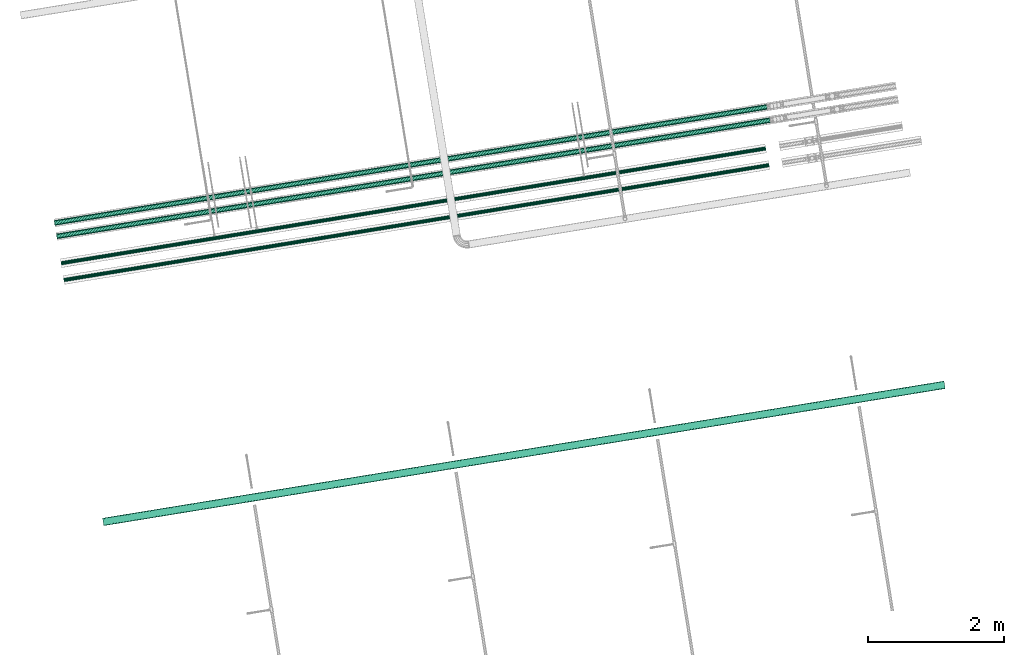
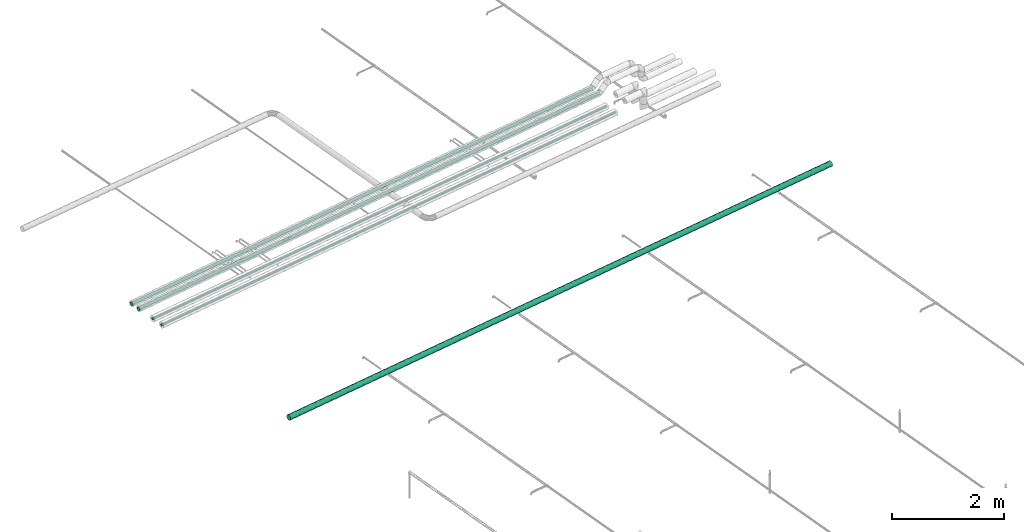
# One storey, part 51 of 56: 5 flow segments.
"""IFC2X3 building model written with IfcOpenShell, lengths in millimetres."""

from ifc_helpers import new_model, entity, si_unit, converted_unit, derived_unit, direction, frame, origin, origin_with_axes, place, context, subcontext, project, spatial, faceted_brep, material, type_object, element, save


model = new_model("IFC2X3")

# Units and contexts
model_context = context("Model", 3, precision=0.01, world=origin(), true_north=direction((6.12323399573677e-17, 1.0)))
plan_context = context("Plan", 3, precision=1e-05, world=origin_with_axes())
body_context = subcontext(model_context, "Body", "Model", "MODEL_VIEW")
ifc_project = project(units=[converted_unit("PLANEANGLEUNIT", "DEGREE", entity("IfcPositiveLengthMeasure", 0.0174532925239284), si_unit("PLANEANGLEUNIT", "RADIAN"), dimensions=[0, 0, 0, 0, 0, 0, 0]), si_unit("AREAUNIT", "SQUARE_METRE"), si_unit("LENGTHUNIT", "METRE", prefix="MILLI"), si_unit("MASSUNIT", "GRAM", prefix="KILO"), si_unit("POWERUNIT", "WATT"), si_unit("PRESSUREUNIT", "PASCAL", prefix="KILO"), si_unit("FORCEUNIT", "NEWTON", prefix="KILO"), si_unit("ELECTRICVOLTAGEUNIT", "VOLT"), si_unit("ELECTRICCURRENTUNIT", "AMPERE"), si_unit("THERMODYNAMICTEMPERATUREUNIT", "DEGREE_CELSIUS"), si_unit("TIMEUNIT", "SECOND"), si_unit("VOLUMEUNIT", "CUBIC_METRE"), derived_unit("LINEARVELOCITYUNIT", [(si_unit("LENGTHUNIT", "METRE"), 1), (si_unit("TIMEUNIT", "SECOND"), -1)]), derived_unit("VOLUMETRICFLOWRATEUNIT", [(si_unit("VOLUMEUNIT", "CUBIC_METRE"), 1), (si_unit("TIMEUNIT", "SECOND"), -1)]), derived_unit("THERMALTRANSMITTANCEUNIT", [(si_unit("POWERUNIT", "WATT"), 1), (si_unit("THERMODYNAMICTEMPERATUREUNIT", "KELVIN"), -1), (si_unit("AREAUNIT", "SQUARE_METRE"), -1)]), derived_unit("SOUNDPRESSUREUNIT", [(si_unit("PRESSUREUNIT", "PASCAL"), 1)])], contexts=[model_context, plan_context])

# Site, building, storey
site_placement = place(None, frame((-3.09682673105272e-06, 1.93776733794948e-05, 0.0), z_axis=(0.0, 0.0, 1.0), x_axis=(-0.160806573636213, 0.986985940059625, 0.0)))
site = spatial("IfcSite", under=ifc_project, at=site_placement, Name="Default", CompositionType="ELEMENT")
building_placement = place(site_placement, frame((0.0, 0.0, 0.0), z_axis=(0.0, 0.0, 1.0), x_axis=(1.0, -2.77555756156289e-17, 0.0)))
building = spatial("IfcBuilding", under=site, at=building_placement, Name="Bygning (endres i Project Information)", CompositionType="ELEMENT")
storey_placement = place(building_placement, frame((0.0, 0.0, 51360.0000000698), z_axis=(0.0, 0.0, 1.0), x_axis=(1.0, -2.77555756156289e-17, 0.0)))
storey = spatial("IfcBuildingStorey", under=building, at=storey_placement, Name="H01-Nivå D+0,36", CompositionType="ELEMENT", Elevation=51360.0000000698)

# Flow segments
ifc_material_1 = material(Name="3320.001")
pipe_segment_type_1 = type_object("IfcPipeSegmentType", Name="Pipe Types:Stålrør sveist og gjenget", PredefinedType="NOTDEFINED", material=ifc_material_1)
flow_segment_1_placement = place(storey_placement, frame((0.0, 0.0, 0.0), z_axis=(0.0, 0.0, 1.0), x_axis=(1.0, -2.77555756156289e-17, 0.0)))
element("IfcFlowSegment", 1, at=flow_segment_1_placement, inside=storey, type_object=pipe_segment_type_1, Name="Pipe Types:Stålrør sveist og gjenget", ObjectType="Pipe Types:Stålrør sveist og gjenget", context=body_context, shape_type="Brep", body=[
    faceted_brep([(1007493.55266009, -384051.763990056, 3379.92399363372), (1007494.42089703, -384051.763990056, 3370.0), (1007494.42089703, -396579.084056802, 3370.0), (1007493.55266009, -396579.084056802, 3379.92399363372), (1007493.55266009, -384051.763990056, 3360.07600636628), (1007493.55266009, -396579.084056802, 3360.07600636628), (1007490.97433022, -384051.763990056, 3350.45354825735), (1007490.97433022, -396579.084056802, 3350.45354825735), (1007486.76424864, -384051.763990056, 3341.42499919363), (1007486.76424864, -396579.084056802, 3341.42499919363), (1007481.05033658, -384051.763990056, 3333.26468706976), (1007481.05033658, -396579.084056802, 3333.26468706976), (1007474.00620835, -384051.763990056, 3326.22055884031), (1007474.00620835, -396579.084056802, 3326.22055884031), (1007465.84589623, -384051.763990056, 3320.50664677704), (1007465.84589623, -396579.084056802, 3320.50664677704), (1007456.81734716, -384051.763990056, 3316.2965652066), (1007456.81734716, -396579.084056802, 3316.2965652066), (1007447.19488906, -384051.763990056, 3313.71823532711), (1007447.19488906, -396579.084056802, 3313.71823532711), (1007437.27089542, -384051.763990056, 3312.84999838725), (1007437.27089542, -396579.084056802, 3312.84999838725), (1007427.34690179, -384051.763990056, 3313.71823532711), (1007427.34690179, -396579.084056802, 3313.71823532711), (1007417.72444368, -384051.763990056, 3316.2965652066), (1007417.72444368, -396579.084056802, 3316.2965652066), (1007408.69589462, -384051.763990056, 3320.50664677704), (1007408.69589462, -396579.084056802, 3320.50664677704), (1007400.53558249, -384051.763990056, 3326.22055884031), (1007400.53558249, -396579.084056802, 3326.22055884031), (1007393.49145426, -384051.763990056, 3333.26468706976), (1007393.49145426, -396579.084056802, 3333.26468706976), (1007387.7775422, -384051.763990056, 3341.42499919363), (1007387.7775422, -396579.084056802, 3341.42499919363), (1007383.56746063, -384051.763990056, 3350.45354825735), (1007383.56746063, -396579.084056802, 3350.45354825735), (1007380.98913075, -384051.763990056, 3360.07600636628), (1007380.98913075, -396579.084056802, 3360.07600636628), (1007380.12089381, -384051.763990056, 3370.0), (1007380.12089381, -396579.084056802, 3370.0), (1007380.98913075, -384051.763990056, 3379.92399363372), (1007380.98913075, -396579.084056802, 3379.92399363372), (1007383.56746063, -384051.763990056, 3389.54645174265), (1007383.56746063, -396579.084056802, 3389.54645174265), (1007387.7775422, -384051.763990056, 3398.57500080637), (1007387.7775422, -396579.084056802, 3398.57500080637), (1007393.49145426, -384051.763990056, 3406.73531293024), (1007393.49145426, -396579.084056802, 3406.73531293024), (1007400.53558249, -384051.763990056, 3413.77944115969), (1007400.53558249, -396579.084056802, 3413.77944115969), (1007408.69589462, -384051.763990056, 3419.49335322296), (1007408.69589462, -396579.084056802, 3419.49335322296), (1007417.72444368, -384051.763990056, 3423.7034347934), (1007417.72444368, -396579.084056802, 3423.7034347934), (1007427.34690179, -384051.763990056, 3426.28176467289), (1007427.34690179, -396579.084056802, 3426.28176467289), (1007437.27089542, -384051.763990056, 3427.15000161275), (1007437.27089542, -396579.084056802, 3427.15000161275), (1007447.19488906, -384051.763990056, 3426.28176467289), (1007447.19488906, -396579.084056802, 3426.28176467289), (1007456.81734716, -384051.763990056, 3423.7034347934), (1007456.81734716, -396579.084056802, 3423.7034347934), (1007465.84589623, -384051.763990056, 3419.49335322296), (1007465.84589623, -396579.084056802, 3419.49335322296), (1007474.00620835, -384051.763990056, 3413.77944115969), (1007474.00620835, -396579.084056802, 3413.77944115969), (1007481.05033658, -384051.763990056, 3406.73531293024), (1007481.05033658, -396579.084056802, 3406.73531293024), (1007486.76424864, -384051.763990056, 3398.57500080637), (1007486.76424864, -396579.084056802, 3398.57500080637), (1007490.97433022, -384051.763990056, 3389.54645174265), (1007490.97433022, -396579.084056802, 3389.54645174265)], [[[0, 1, 2, 3]], [[1, 4, 5, 2]], [[4, 6, 7, 5]], [[6, 8, 9, 7]], [[8, 10, 11, 9]], [[10, 12, 13, 11]], [[12, 14, 15, 13]], [[14, 16, 17, 15]], [[16, 18, 19, 17]], [[18, 20, 21, 19]], [[20, 22, 23, 21]], [[22, 24, 25, 23]], [[24, 26, 27, 25]], [[26, 28, 29, 27]], [[28, 30, 31, 29]], [[30, 32, 33, 31]], [[32, 34, 35, 33]], [[34, 36, 37, 35]], [[36, 38, 39, 37]], [[38, 40, 41, 39]], [[40, 42, 43, 41]], [[42, 44, 45, 43]], [[44, 46, 47, 45]], [[46, 48, 49, 47]], [[48, 50, 51, 49]], [[50, 52, 53, 51]], [[52, 54, 55, 53]], [[54, 56, 57, 55]], [[56, 58, 59, 57]], [[58, 60, 61, 59]], [[60, 62, 63, 61]], [[62, 64, 65, 63]], [[64, 66, 67, 65]], [[66, 68, 69, 67]], [[68, 70, 71, 69]], [[70, 0, 3, 71]], [[70, 68, 66, 64, 62, 60, 58, 56, 54, 52, 50, 48, 46, 44, 42, 40, 38, 36, 34, 32, 30, 28, 26, 24, 22, 20, 18, 16, 14, 12, 10, 8, 6, 4, 1, 0]], [[5, 7, 9, 11, 13, 15, 17, 19, 21, 23, 25, 27, 29, 31, 33, 35, 37, 39, 41, 43, 45, 47, 49, 51, 53, 55, 57, 59, 61, 63, 65, 67, 69, 71, 3, 2]]], orient=[[False], [False], [False], [False], [False], [False], [False], [False], [False], [False], [False], [False], [False], [False], [False], [False], [False], [False], [False], [False], [False], [False], [False], [False], [False], [False], [False], [False], [False], [False], [False], [False], [False], [False], [False], [False], [False], [False]]),
])
flow_segment_2_placement = place(storey_placement, frame((0.0, 0.0, 0.0), z_axis=(0.0, 0.0, 1.0), x_axis=(1.0, -2.77555756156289e-17, 0.0)))
element("IfcFlowSegment", 2, at=flow_segment_2_placement, inside=storey, type_object=pipe_segment_type_1, Name="Pipe Types:Stålrør sveist og gjenget", ObjectType="Pipe Types:Stålrør sveist og gjenget", context=body_context, shape_type="Brep", body=[
    faceted_brep([(1011925.83957724, -384051.763990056, 3446.60804996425), (1011926.41764223, -384051.763990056, 3440.00073692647), (1011926.41764223, -394659.672553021, 3440.00073692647), (1011925.83957724, -394659.672553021, 3446.60804996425), (1011925.83957724, -384051.763990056, 3433.39342388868), (1011925.83957724, -394659.672553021, 3433.39342388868), (1011924.12294649, -384051.763990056, 3426.98687071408), (1011924.12294649, -394659.672553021, 3426.98687071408), (1011921.31990894, -384051.763990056, 3420.97573727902), (1011921.31990894, -394659.672553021, 3420.97573727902), (1011917.51563346, -384051.763990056, 3415.54266883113), (1011917.51563346, -394659.672553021, 3415.54266883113), (1011912.82571103, -384051.763990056, 3410.85274640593), (1011912.82571103, -394659.672553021, 3410.85274640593), (1011907.39264258, -384051.763990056, 3407.04847092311), (1011907.39264258, -394659.672553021, 3407.04847092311), (1011901.38150915, -384051.763990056, 3404.24543336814), (1011901.38150915, -394659.672553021, 3404.24543336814), (1011894.97495597, -384051.763990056, 3402.52880261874), (1011894.97495597, -394659.672553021, 3402.52880261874), (1011888.36764294, -384051.763990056, 3401.95073763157), (1011888.36764294, -394659.672553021, 3401.95073763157), (1011881.7603299, -384051.763990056, 3402.52880261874), (1011881.7603299, -394659.672553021, 3402.52880261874), (1011875.35377672, -384051.763990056, 3404.24543336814), (1011875.35377672, -394659.672553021, 3404.24543336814), (1011869.34264329, -384051.763990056, 3407.04847092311), (1011869.34264329, -394659.672553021, 3407.04847092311), (1011863.90957484, -384051.763990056, 3410.85274640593), (1011863.90957484, -394659.672553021, 3410.85274640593), (1011859.21965241, -384051.763990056, 3415.54266883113), (1011859.21965241, -394659.672553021, 3415.54266883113), (1011855.41537693, -384051.763990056, 3420.97573727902), (1011855.41537693, -394659.672553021, 3420.97573727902), (1011852.61233938, -384051.763990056, 3426.98687071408), (1011852.61233938, -394659.672553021, 3426.98687071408), (1011850.89570863, -384051.763990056, 3433.39342388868), (1011850.89570863, -394659.672553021, 3433.39342388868), (1011850.31764364, -384051.763990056, 3440.00073692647), (1011850.31764364, -394659.672553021, 3440.00073692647), (1011850.89570863, -384051.763990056, 3446.60804996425), (1011850.89570863, -394659.672553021, 3446.60804996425), (1011852.61233938, -384051.763990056, 3453.01460313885), (1011852.61233938, -394659.672553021, 3453.01460313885), (1011855.41537693, -384051.763990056, 3459.02573657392), (1011855.41537693, -394659.672553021, 3459.02573657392), (1011859.21965241, -384051.763990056, 3464.45880502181), (1011859.21965241, -394659.672553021, 3464.45880502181), (1011863.90957484, -384051.763990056, 3469.148727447), (1011863.90957484, -394659.672553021, 3469.148727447), (1011869.34264329, -384051.763990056, 3472.95300292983), (1011869.34264329, -394659.672553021, 3472.95300292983), (1011875.35377672, -384051.763990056, 3475.75604048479), (1011875.35377672, -394659.672553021, 3475.75604048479), (1011881.7603299, -384051.763990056, 3477.47267123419), (1011881.7603299, -394659.672553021, 3477.47267123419), (1011888.36764294, -384051.763990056, 3478.05073622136), (1011888.36764294, -394659.672553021, 3478.05073622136), (1011894.97495597, -384051.763990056, 3477.47267123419), (1011894.97495597, -394659.672553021, 3477.47267123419), (1011901.38150915, -384051.763990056, 3475.75604048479), (1011901.38150915, -394659.672553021, 3475.75604048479), (1011907.39264258, -384051.763990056, 3472.95300292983), (1011907.39264258, -394659.672553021, 3472.95300292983), (1011912.82571103, -384051.763990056, 3469.148727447), (1011912.82571103, -394659.672553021, 3469.148727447), (1011917.51563346, -384051.763990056, 3464.45880502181), (1011917.51563346, -394659.672553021, 3464.45880502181), (1011921.31990894, -384051.763990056, 3459.02573657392), (1011921.31990894, -394659.672553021, 3459.02573657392), (1011924.12294649, -384051.763990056, 3453.01460313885), (1011924.12294649, -394659.672553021, 3453.01460313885)], [[[0, 1, 2, 3]], [[1, 4, 5, 2]], [[4, 6, 7, 5]], [[6, 8, 9, 7]], [[8, 10, 11, 9]], [[10, 12, 13, 11]], [[12, 14, 15, 13]], [[14, 16, 17, 15]], [[16, 18, 19, 17]], [[18, 20, 21, 19]], [[20, 22, 23, 21]], [[22, 24, 25, 23]], [[24, 26, 27, 25]], [[26, 28, 29, 27]], [[28, 30, 31, 29]], [[30, 32, 33, 31]], [[32, 34, 35, 33]], [[34, 36, 37, 35]], [[36, 38, 39, 37]], [[38, 40, 41, 39]], [[40, 42, 43, 41]], [[42, 44, 45, 43]], [[44, 46, 47, 45]], [[46, 48, 49, 47]], [[48, 50, 51, 49]], [[50, 52, 53, 51]], [[52, 54, 55, 53]], [[54, 56, 57, 55]], [[56, 58, 59, 57]], [[58, 60, 61, 59]], [[60, 62, 63, 61]], [[62, 64, 65, 63]], [[64, 66, 67, 65]], [[66, 68, 69, 67]], [[68, 70, 71, 69]], [[70, 0, 3, 71]], [[3, 2, 5, 7, 9, 11, 13, 15, 17, 19, 21, 23, 25, 27, 29, 31, 33, 35, 37, 39, 41, 43, 45, 47, 49, 51, 53, 55, 57, 59, 61, 63, 65, 67, 69, 71]], [[70, 68, 66, 64, 62, 60, 58, 56, 54, 52, 50, 48, 46, 44, 42, 40, 38, 36, 34, 32, 30, 28, 26, 24, 22, 20, 18, 16, 14, 12, 10, 8, 6, 4, 1, 0]]], orient=[[False], [False], [False], [False], [False], [False], [False], [False], [False], [False], [False], [False], [False], [False], [False], [False], [False], [False], [False], [False], [False], [False], [False], [False], [False], [False], [False], [False], [False], [False], [False], [False], [False], [False], [False], [False], [False], [False]]),
])
flow_segment_3_placement = place(storey_placement, frame((0.0, 0.0, 0.0), z_axis=(0.0, 0.0, 1.0), x_axis=(1.0, -2.77555756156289e-17, 0.0)))
element("IfcFlowSegment", 3, at=flow_segment_3_placement, inside=storey, type_object=pipe_segment_type_1, Name="Pipe Types:Stålrør sveist og gjenget", ObjectType="Pipe Types:Stålrør sveist og gjenget", context=body_context, shape_type="Brep", body=[
    faceted_brep([(1011725.83957724, -384051.763990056, 3446.60804996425), (1011726.41764223, -384051.763990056, 3440.00073692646), (1011726.41764223, -394674.672553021, 3440.00073692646), (1011725.83957724, -394674.672553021, 3446.60804996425), (1011725.83957724, -384051.763990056, 3433.39342388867), (1011725.83957724, -394674.672553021, 3433.39342388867), (1011724.12294649, -384051.763990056, 3426.98687071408), (1011724.12294649, -394674.672553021, 3426.98687071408), (1011721.31990894, -384051.763990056, 3420.97573727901), (1011721.31990894, -394674.672553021, 3420.97573727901), (1011717.51563346, -384051.763990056, 3415.54266883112), (1011717.51563346, -394674.672553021, 3415.54266883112), (1011712.82571103, -384051.763990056, 3410.85274640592), (1011712.82571103, -394674.672553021, 3410.85274640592), (1011707.39264258, -384051.763990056, 3407.0484709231), (1011707.39264258, -394674.672553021, 3407.0484709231), (1011701.38150915, -384051.763990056, 3404.24543336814), (1011701.38150915, -394674.672553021, 3404.24543336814), (1011694.97495597, -384051.763990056, 3402.52880261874), (1011694.97495597, -394674.672553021, 3402.52880261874), (1011688.36764294, -384051.763990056, 3401.95073763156), (1011688.36764294, -394674.672553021, 3401.95073763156), (1011681.7603299, -384051.763990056, 3402.52880261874), (1011681.7603299, -394674.672553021, 3402.52880261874), (1011675.35377672, -384051.763990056, 3404.24543336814), (1011675.35377672, -394674.672553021, 3404.24543336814), (1011669.34264329, -384051.763990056, 3407.0484709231), (1011669.34264329, -394674.672553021, 3407.0484709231), (1011663.90957484, -384051.763990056, 3410.85274640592), (1011663.90957484, -394674.672553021, 3410.85274640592), (1011659.21965241, -384051.763990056, 3415.54266883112), (1011659.21965241, -394674.672553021, 3415.54266883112), (1011655.41537693, -384051.763990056, 3420.97573727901), (1011655.41537693, -394674.672553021, 3420.97573727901), (1011652.61233938, -384051.763990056, 3426.98687071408), (1011652.61233938, -394674.672553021, 3426.98687071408), (1011650.89570863, -384051.763990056, 3433.39342388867), (1011650.89570863, -394674.672553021, 3433.39342388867), (1011650.31764364, -384051.763990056, 3440.00073692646), (1011650.31764364, -394674.672553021, 3440.00073692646), (1011650.89570863, -384051.763990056, 3446.60804996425), (1011650.89570863, -394674.672553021, 3446.60804996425), (1011652.61233938, -384051.763990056, 3453.01460313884), (1011652.61233938, -394674.672553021, 3453.01460313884), (1011655.41537693, -384051.763990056, 3459.02573657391), (1011655.41537693, -394674.672553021, 3459.02573657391), (1011659.21965241, -384051.763990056, 3464.4588050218), (1011659.21965241, -394674.672553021, 3464.4588050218), (1011663.90957484, -384051.763990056, 3469.148727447), (1011663.90957484, -394674.672553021, 3469.148727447), (1011669.34264329, -384051.763990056, 3472.95300292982), (1011669.34264329, -394674.672553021, 3472.95300292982), (1011675.35377672, -384051.763990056, 3475.75604048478), (1011675.35377672, -394674.672553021, 3475.75604048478), (1011681.7603299, -384051.763990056, 3477.47267123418), (1011681.7603299, -394674.672553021, 3477.47267123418), (1011688.36764294, -384051.763990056, 3478.05073622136), (1011688.36764294, -394674.672553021, 3478.05073622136), (1011694.97495597, -384051.763990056, 3477.47267123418), (1011694.97495597, -394674.672553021, 3477.47267123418), (1011701.38150915, -384051.763990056, 3475.75604048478), (1011701.38150915, -394674.672553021, 3475.75604048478), (1011707.39264258, -384051.763990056, 3472.95300292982), (1011707.39264258, -394674.672553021, 3472.95300292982), (1011712.82571103, -384051.763990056, 3469.148727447), (1011712.82571103, -394674.672553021, 3469.148727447), (1011717.51563346, -384051.763990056, 3464.4588050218), (1011717.51563346, -394674.672553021, 3464.4588050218), (1011721.31990894, -384051.763990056, 3459.02573657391), (1011721.31990894, -394674.672553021, 3459.02573657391), (1011724.12294649, -384051.763990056, 3453.01460313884), (1011724.12294649, -394674.672553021, 3453.01460313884)], [[[0, 1, 2, 3]], [[1, 4, 5, 2]], [[4, 6, 7, 5]], [[6, 8, 9, 7]], [[8, 10, 11, 9]], [[10, 12, 13, 11]], [[12, 14, 15, 13]], [[14, 16, 17, 15]], [[16, 18, 19, 17]], [[18, 20, 21, 19]], [[20, 22, 23, 21]], [[22, 24, 25, 23]], [[24, 26, 27, 25]], [[26, 28, 29, 27]], [[28, 30, 31, 29]], [[30, 32, 33, 31]], [[32, 34, 35, 33]], [[34, 36, 37, 35]], [[36, 38, 39, 37]], [[38, 40, 41, 39]], [[40, 42, 43, 41]], [[42, 44, 45, 43]], [[44, 46, 47, 45]], [[46, 48, 49, 47]], [[48, 50, 51, 49]], [[50, 52, 53, 51]], [[52, 54, 55, 53]], [[54, 56, 57, 55]], [[56, 58, 59, 57]], [[58, 60, 61, 59]], [[60, 62, 63, 61]], [[62, 64, 65, 63]], [[64, 66, 67, 65]], [[66, 68, 69, 67]], [[68, 70, 71, 69]], [[70, 0, 3, 71]], [[3, 2, 5, 7, 9, 11, 13, 15, 17, 19, 21, 23, 25, 27, 29, 31, 33, 35, 37, 39, 41, 43, 45, 47, 49, 51, 53, 55, 57, 59, 61, 63, 65, 67, 69, 71]], [[70, 68, 66, 64, 62, 60, 58, 56, 54, 52, 50, 48, 46, 44, 42, 40, 38, 36, 34, 32, 30, 28, 26, 24, 22, 20, 18, 16, 14, 12, 10, 8, 6, 4, 1, 0]]], orient=[[False], [False], [False], [False], [False], [False], [False], [False], [False], [False], [False], [False], [False], [False], [False], [False], [False], [False], [False], [False], [False], [False], [False], [False], [False], [False], [False], [False], [False], [False], [False], [False], [False], [False], [False], [False], [False], [False]]),
])
ifc_material_2 = material(Name="3200.005 Tur")
pipe_segment_type_2 = type_object("IfcPipeSegmentType", Name="Pipe Types:Pressfittingssystem MM", PredefinedType="NOTDEFINED", material=ifc_material_2)
flow_segment_4_placement = place(storey_placement, frame((0.0, 0.0, 0.0), z_axis=(0.0, 0.0, 1.0), x_axis=(1.0, -2.77555756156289e-17, 0.0)))
element("IfcFlowSegment", 4, at=flow_segment_4_placement, inside=storey, type_object=pipe_segment_type_2, Name="Pipe Types:Pressfittingssystem MM", ObjectType="Pipe Types:Pressfittingssystem MM", context=body_context, shape_type="Brep", body=[
    faceted_brep([(1011261.81499908, -384051.763990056, 3435.31149919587), (1011261.40480841, -384051.763990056, 3440.0), (1011261.40480841, -394543.725267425, 3440.0), (1011261.81499908, -394543.725267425, 3435.31149919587), (1011261.81499908, -384051.763990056, 3444.68850080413), (1011261.81499908, -394543.725267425, 3444.68850080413), (1011263.03310765, -384051.763990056, 3449.23454388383), (1011263.03310765, -394543.725267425, 3449.23454388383), (1011265.02212251, -384051.763990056, 3453.50000002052), (1011265.02212251, -394543.725267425, 3453.50000002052), (1011267.72160846, -384051.763990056, 3457.35526548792), (1011267.72160846, -394543.725267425, 3457.35526548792), (1011271.04954296, -384051.763990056, 3460.68319999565), (1011271.04954296, -394543.725267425, 3460.68319999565), (1011274.90480843, -384051.763990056, 3463.38268593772), (1011274.90480843, -394543.725267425, 3463.38268593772), (1011279.17026457, -384051.763990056, 3465.37170079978), (1011279.17026457, -394543.725267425, 3465.37170079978), (1011283.71630765, -384051.763990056, 3466.58980937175), (1011283.71630765, -394543.725267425, 3466.58980937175), (1011288.40480845, -384051.763990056, 3467.00000004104), (1011288.40480845, -394543.725267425, 3467.00000004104), (1011293.09330926, -384051.763990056, 3466.58980937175), (1011293.09330925, -394543.725267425, 3466.58980937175), (1011297.63935233, -384051.763990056, 3465.37170079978), (1011297.63935233, -394543.725267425, 3465.37170079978), (1011301.90480847, -384051.763990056, 3463.38268593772), (1011301.90480847, -394543.725267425, 3463.38268593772), (1011305.76007394, -384051.763990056, 3460.68319999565), (1011305.76007394, -394543.725267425, 3460.68319999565), (1011309.08800845, -384051.763990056, 3457.35526548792), (1011309.08800845, -394543.725267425, 3457.35526548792), (1011311.78749439, -384051.763990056, 3453.50000002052), (1011311.78749439, -394543.725267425, 3453.50000002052), (1011313.77650925, -384051.763990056, 3449.23454388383), (1011313.77650925, -394543.725267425, 3449.23454388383), (1011314.99461782, -384051.763990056, 3444.68850080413), (1011314.99461782, -394543.725267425, 3444.68850080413), (1011315.40480849, -384051.763990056, 3440.0), (1011315.40480849, -394543.725267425, 3440.0), (1011314.99461782, -384051.763990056, 3435.31149919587), (1011314.99461782, -394543.725267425, 3435.31149919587), (1011313.77650925, -384051.763990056, 3430.76545611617), (1011313.77650925, -394543.725267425, 3430.76545611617), (1011311.78749439, -384051.763990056, 3426.49999997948), (1011311.78749439, -394543.725267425, 3426.49999997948), (1011309.08800845, -384051.763990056, 3422.64473451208), (1011309.08800845, -394543.725267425, 3422.64473451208), (1011305.76007394, -384051.763990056, 3419.31680000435), (1011305.76007394, -394543.725267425, 3419.31680000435), (1011301.90480847, -384051.763990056, 3416.61731406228), (1011301.90480847, -394543.725267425, 3416.61731406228), (1011297.63935233, -384051.763990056, 3414.62829920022), (1011297.63935233, -394543.725267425, 3414.62829920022), (1011293.09330926, -384051.763990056, 3413.41019062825), (1011293.09330925, -394543.725267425, 3413.41019062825), (1011288.40480845, -384051.763990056, 3412.99999995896), (1011288.40480845, -394543.725267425, 3412.99999995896), (1011283.71630765, -384051.763990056, 3413.41019062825), (1011283.71630765, -394543.725267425, 3413.41019062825), (1011279.17026457, -384051.763990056, 3414.62829920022), (1011279.17026457, -394543.725267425, 3414.62829920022), (1011274.90480843, -384051.763990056, 3416.61731406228), (1011274.90480843, -394543.725267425, 3416.61731406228), (1011271.04954296, -384051.763990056, 3419.31680000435), (1011271.04954296, -394543.725267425, 3419.31680000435), (1011267.72160846, -384051.763990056, 3422.64473451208), (1011267.72160846, -394543.725267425, 3422.64473451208), (1011265.02212251, -384051.763990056, 3426.49999997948), (1011265.02212251, -394543.725267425, 3426.49999997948), (1011263.03310765, -384051.763990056, 3430.76545611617), (1011263.03310765, -394543.725267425, 3430.76545611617)], [[[0, 1, 2, 3]], [[1, 4, 5, 2]], [[4, 6, 7, 5]], [[6, 8, 9, 7]], [[8, 10, 11, 9]], [[10, 12, 13, 11]], [[12, 14, 15, 13]], [[14, 16, 17, 15]], [[16, 18, 19, 17]], [[18, 20, 21, 19]], [[20, 22, 23, 21]], [[22, 24, 25, 23]], [[24, 26, 27, 25]], [[26, 28, 29, 27]], [[28, 30, 31, 29]], [[30, 32, 33, 31]], [[32, 34, 35, 33]], [[34, 36, 37, 35]], [[36, 38, 39, 37]], [[38, 40, 41, 39]], [[40, 42, 43, 41]], [[42, 44, 45, 43]], [[44, 46, 47, 45]], [[46, 48, 49, 47]], [[48, 50, 51, 49]], [[50, 52, 53, 51]], [[52, 54, 55, 53]], [[54, 56, 57, 55]], [[56, 58, 59, 57]], [[58, 60, 61, 59]], [[60, 62, 63, 61]], [[62, 64, 65, 63]], [[64, 66, 67, 65]], [[66, 68, 69, 67]], [[68, 70, 71, 69]], [[70, 0, 3, 71]], [[3, 2, 5, 7, 9, 11, 13, 15, 17, 19, 21, 23, 25, 27, 29, 31, 33, 35, 37, 39, 41, 43, 45, 47, 49, 51, 53, 55, 57, 59, 61, 63, 65, 67, 69, 71]], [[70, 68, 66, 64, 62, 60, 58, 56, 54, 52, 50, 48, 46, 44, 42, 40, 38, 36, 34, 32, 30, 28, 26, 24, 22, 20, 18, 16, 14, 12, 10, 8, 6, 4, 1, 0]]], orient=[[False], [False], [False], [False], [False], [False], [False], [False], [False], [False], [False], [False], [False], [False], [False], [False], [False], [False], [False], [False], [False], [False], [False], [False], [False], [False], [False], [False], [False], [False], [False], [False], [False], [False], [False], [False], [False], [False]]),
])
flow_segment_5_placement = place(storey_placement, frame((0.0, 0.0, 0.0), z_axis=(0.0, 0.0, 1.0), x_axis=(1.0, -2.77555756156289e-17, 0.0)))
element("IfcFlowSegment", 5, at=flow_segment_5_placement, inside=storey, type_object=pipe_segment_type_2, Name="Pipe Types:Pressfittingssystem MM", ObjectType="Pipe Types:Pressfittingssystem MM", context=body_context, shape_type="Brep", body=[
    faceted_brep([(1011011.84703343, -384051.763990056, 3435.31149919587), (1011011.43684277, -384051.763990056, 3440.0), (1011011.43684277, -394553.757301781, 3440.0), (1011011.84703343, -394553.757301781, 3435.31149919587), (1011011.84703343, -384051.763990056, 3444.68850080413), (1011011.84703343, -394553.757301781, 3444.68850080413), (1011013.06514201, -384051.763990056, 3449.23454388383), (1011013.06514201, -394553.757301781, 3449.23454388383), (1011015.05415687, -384051.763990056, 3453.50000002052), (1011015.05415687, -394553.757301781, 3453.50000002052), (1011017.75364281, -384051.763990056, 3457.35526548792), (1011017.75364281, -394553.757301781, 3457.35526548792), (1011021.08157732, -384051.763990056, 3460.68319999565), (1011021.08157732, -394553.757301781, 3460.68319999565), (1011024.93684279, -384051.763990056, 3463.38268593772), (1011024.93684279, -394553.757301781, 3463.38268593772), (1011029.20229892, -384051.763990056, 3465.37170079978), (1011029.20229892, -394553.757301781, 3465.37170079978), (1011033.748342, -384051.763990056, 3466.58980937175), (1011033.748342, -394553.757301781, 3466.58980937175), (1011038.43684281, -384051.763990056, 3467.00000004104), (1011038.43684281, -394553.757301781, 3467.00000004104), (1011043.12534361, -384051.763990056, 3466.58980937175), (1011043.12534361, -394553.757301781, 3466.58980937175), (1011047.67138669, -384051.763990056, 3465.37170079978), (1011047.67138669, -394553.757301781, 3465.37170079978), (1011051.93684283, -384051.763990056, 3463.38268593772), (1011051.93684283, -394553.757301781, 3463.38268593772), (1011055.79210829, -384051.763990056, 3460.68319999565), (1011055.79210829, -394553.757301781, 3460.68319999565), (1011059.1200428, -384051.763990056, 3457.35526548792), (1011059.1200428, -394553.757301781, 3457.35526548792), (1011061.81952874, -384051.763990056, 3453.50000002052), (1011061.81952874, -394553.757301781, 3453.50000002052), (1011063.80854361, -384051.763990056, 3449.23454388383), (1011063.80854361, -394553.757301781, 3449.23454388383), (1011065.02665218, -384051.763990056, 3444.68850080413), (1011065.02665218, -394553.757301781, 3444.68850080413), (1011065.43684285, -384051.763990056, 3440.0), (1011065.43684285, -394553.757301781, 3440.0), (1011065.02665218, -384051.763990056, 3435.31149919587), (1011065.02665218, -394553.757301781, 3435.31149919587), (1011063.80854361, -384051.763990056, 3430.76545611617), (1011063.80854361, -394553.757301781, 3430.76545611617), (1011061.81952874, -384051.763990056, 3426.49999997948), (1011061.81952874, -394553.757301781, 3426.49999997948), (1011059.1200428, -384051.763990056, 3422.64473451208), (1011059.1200428, -394553.757301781, 3422.64473451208), (1011055.79210829, -384051.763990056, 3419.31680000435), (1011055.79210829, -394553.757301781, 3419.31680000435), (1011051.93684283, -384051.763990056, 3416.61731406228), (1011051.93684283, -394553.757301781, 3416.61731406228), (1011047.67138669, -384051.763990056, 3414.62829920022), (1011047.67138669, -394553.757301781, 3414.62829920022), (1011043.12534361, -384051.763990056, 3413.41019062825), (1011043.12534361, -394553.757301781, 3413.41019062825), (1011038.43684281, -384051.763990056, 3412.99999995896), (1011038.43684281, -394553.757301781, 3412.99999995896), (1011033.748342, -384051.763990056, 3413.41019062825), (1011033.748342, -394553.757301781, 3413.41019062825), (1011029.20229892, -384051.763990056, 3414.62829920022), (1011029.20229892, -394553.757301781, 3414.62829920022), (1011024.93684279, -384051.763990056, 3416.61731406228), (1011024.93684279, -394553.757301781, 3416.61731406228), (1011021.08157732, -384051.763990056, 3419.31680000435), (1011021.08157732, -394553.757301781, 3419.31680000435), (1011017.75364281, -384051.763990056, 3422.64473451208), (1011017.75364281, -394553.757301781, 3422.64473451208), (1011015.05415687, -384051.763990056, 3426.49999997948), (1011015.05415687, -394553.757301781, 3426.49999997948), (1011013.06514201, -384051.763990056, 3430.76545611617), (1011013.06514201, -394553.757301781, 3430.76545611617)], [[[0, 1, 2, 3]], [[1, 4, 5, 2]], [[4, 6, 7, 5]], [[6, 8, 9, 7]], [[8, 10, 11, 9]], [[10, 12, 13, 11]], [[12, 14, 15, 13]], [[14, 16, 17, 15]], [[16, 18, 19, 17]], [[18, 20, 21, 19]], [[20, 22, 23, 21]], [[22, 24, 25, 23]], [[24, 26, 27, 25]], [[26, 28, 29, 27]], [[28, 30, 31, 29]], [[30, 32, 33, 31]], [[32, 34, 35, 33]], [[34, 36, 37, 35]], [[36, 38, 39, 37]], [[38, 40, 41, 39]], [[40, 42, 43, 41]], [[42, 44, 45, 43]], [[44, 46, 47, 45]], [[46, 48, 49, 47]], [[48, 50, 51, 49]], [[50, 52, 53, 51]], [[52, 54, 55, 53]], [[54, 56, 57, 55]], [[56, 58, 59, 57]], [[58, 60, 61, 59]], [[60, 62, 63, 61]], [[62, 64, 65, 63]], [[64, 66, 67, 65]], [[66, 68, 69, 67]], [[68, 70, 71, 69]], [[70, 0, 3, 71]], [[3, 2, 5, 7, 9, 11, 13, 15, 17, 19, 21, 23, 25, 27, 29, 31, 33, 35, 37, 39, 41, 43, 45, 47, 49, 51, 53, 55, 57, 59, 61, 63, 65, 67, 69, 71]], [[70, 68, 66, 64, 62, 60, 58, 56, 54, 52, 50, 48, 46, 44, 42, 40, 38, 36, 34, 32, 30, 28, 26, 24, 22, 20, 18, 16, 14, 12, 10, 8, 6, 4, 1, 0]]], orient=[[False], [False], [False], [False], [False], [False], [False], [False], [False], [False], [False], [False], [False], [False], [False], [False], [False], [False], [False], [False], [False], [False], [False], [False], [False], [False], [False], [False], [False], [False], [False], [False], [False], [False], [False], [False], [False], [False]]),
])

save(model, "model.ifc")
